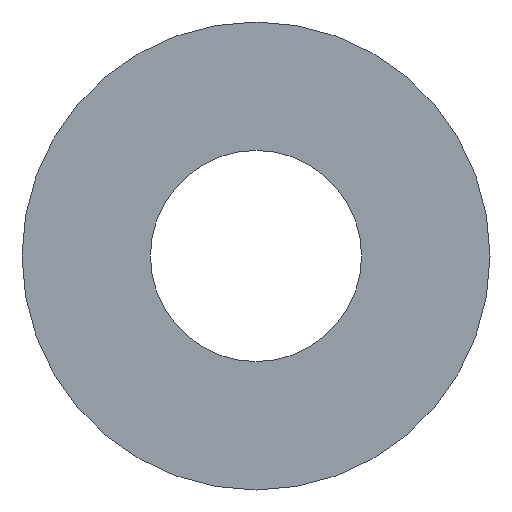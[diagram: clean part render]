
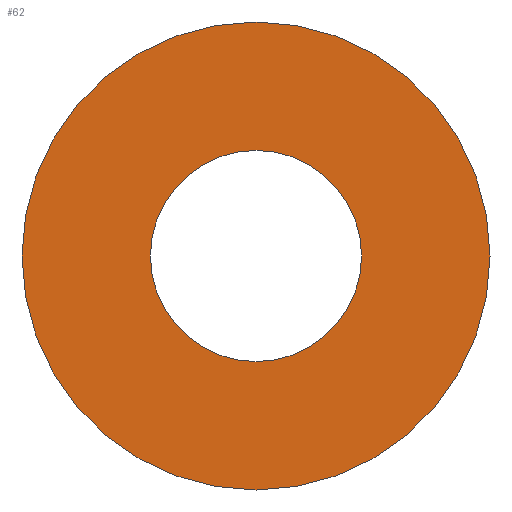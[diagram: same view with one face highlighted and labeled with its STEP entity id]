
A CAD part, front view. The second image highlights one B-rep face of the part: STEP entity #62.
In plain terms, the highlighted planar face has unit normal (0, -1, 0).
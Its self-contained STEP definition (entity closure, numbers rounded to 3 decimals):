
#20=PLANE('',#83);
#26=ORIENTED_EDGE('',*,*,#30,.T.);
#27=ORIENTED_EDGE('',*,*,#32,.F.);
#30=EDGE_CURVE('',#34,#34,#38,.T.);
#32=EDGE_CURVE('',#36,#36,#40,.T.);
#34=VERTEX_POINT('',#106);
#36=VERTEX_POINT('',#111);
#38=CIRCLE('',#78,18.5);
#40=CIRCLE('',#81,41.);
#46=EDGE_LOOP('',(#26));
#47=EDGE_LOOP('',(#27));
#54=FACE_BOUND('',#46,.T.);
#55=FACE_BOUND('',#47,.T.);
#62=ADVANCED_FACE('',(#54,#55),#20,.F.);
#78=AXIS2_PLACEMENT_3D('',#105,#89,#90);
#81=AXIS2_PLACEMENT_3D('',#110,#95,#96);
#83=AXIS2_PLACEMENT_3D('',#114,#99,#100);
#89=DIRECTION('',(0.,1.,0.));
#90=DIRECTION('',(1.,0.,0.));
#95=DIRECTION('',(0.,1.,0.));
#96=DIRECTION('',(1.,0.,0.));
#99=DIRECTION('',(0.,1.,0.));
#100=DIRECTION('',(0.,0.,1.));
#105=CARTESIAN_POINT('',(0.,-1.5,0.));
#106=CARTESIAN_POINT('',(18.5,-1.5,0.));
#110=CARTESIAN_POINT('',(0.,-1.5,0.));
#111=CARTESIAN_POINT('',(41.,-1.5,0.));
#114=CARTESIAN_POINT('',(0.,-1.5,0.));
